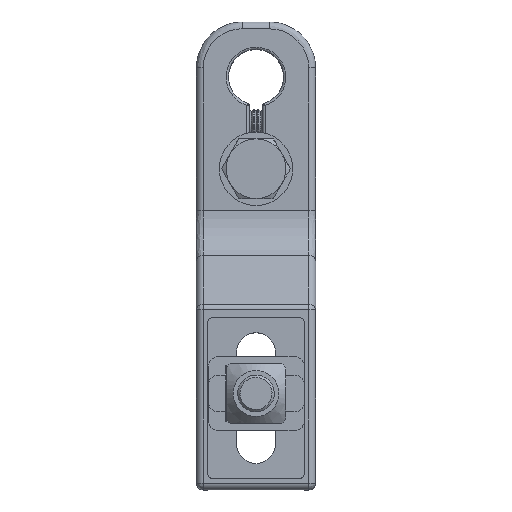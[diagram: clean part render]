
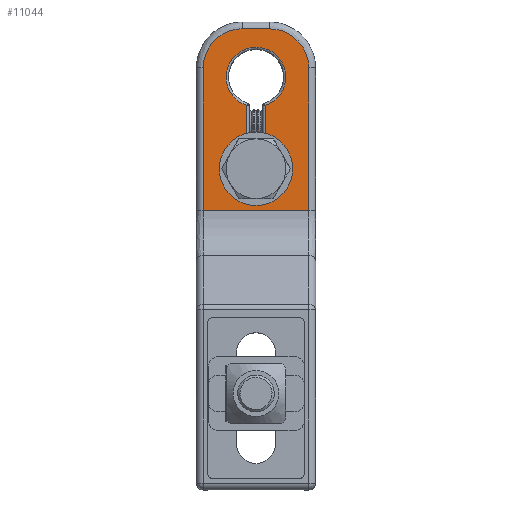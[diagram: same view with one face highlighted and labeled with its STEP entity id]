
A CAD part, top view. The second image highlights one B-rep face of the part: STEP entity #11044.
In plain terms, the highlighted planar face has unit normal (0, 0, 1).
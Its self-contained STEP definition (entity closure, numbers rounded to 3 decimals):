
#117 = VERTEX_POINT ( 'NONE', #3229 ) ;
#174 = EDGE_CURVE ( 'NONE', #6203, #10761, #5980, .T. ) ;
#317 = CARTESIAN_POINT ( 'NONE',  ( 11., 36.185, 0. ) ) ;
#330 = CARTESIAN_POINT ( 'NONE',  ( 24.5, 52., 0. ) ) ;
#622 =( BOUNDED_CURVE ( )  B_SPLINE_CURVE ( 3, ( #3763, #1930, #4770, #8723 ),
 .UNSPECIFIED., .F., .T. ) 
 B_SPLINE_CURVE_WITH_KNOTS ( ( 4, 4 ),
 ( 0., 1. ),
 .UNSPECIFIED. ) 
 CURVE ( )  GEOMETRIC_REPRESENTATION_ITEM ( )  RATIONAL_B_SPLINE_CURVE ( ( 1., 0.437, 0.437, 1. ) ) 
 REPRESENTATION_ITEM ( '' )  );
#626 = VECTOR ( 'NONE', #7949, 1000. ) ;
#1338 = VECTOR ( 'NONE', #11007, 1000. ) ;
#1361 = LINE ( 'NONE', #10711, #9030 ) ;
#1420 = DIRECTION ( 'NONE',  ( 1., 0., 0. ) ) ;
#1682 = CARTESIAN_POINT ( 'NONE',  ( 3.209, 56.5, 0. ) ) ;
#1705 = VERTEX_POINT ( 'NONE', #9413 ) ;
#1741 = ORIENTED_EDGE ( 'NONE', *, *, #174, .F. ) ;
#1801 = CARTESIAN_POINT ( 'NONE',  ( 1.5, 52., 0. ) ) ;
#1858 = CARTESIAN_POINT ( 'NONE',  ( 26., 20.951, 0. ) ) ;
#1911 = LINE ( 'NONE', #1858, #10162 ) ;
#1930 = CARTESIAN_POINT ( 'NONE',  ( 24.316, 46.828, 0. ) ) ;
#1964 = EDGE_CURVE ( 'NONE', #1991, #2882, #5147, .T. ) ;
#1991 = VERTEX_POINT ( 'NONE', #5323 ) ;
#2467 = ORIENTED_EDGE ( 'NONE', *, *, #3385, .F. ) ;
#2603 = CARTESIAN_POINT ( 'NONE',  ( 11., 14.704, 0. ) ) ;
#2882 = VERTEX_POINT ( 'NONE', #11005 ) ;
#3055 =( BOUNDED_CURVE ( )  B_SPLINE_CURVE ( 3, ( #1801, #6633, #11142, #5691 ),
 .UNSPECIFIED., .F., .F. ) 
 B_SPLINE_CURVE_WITH_KNOTS ( ( 4, 4 ),
 ( 0., 1. ),
 .UNSPECIFIED. ) 
 CURVE ( )  GEOMETRIC_REPRESENTATION_ITEM ( )  RATIONAL_B_SPLINE_CURVE ( ( 1., 0.805, 0.805, 1. ) ) 
 REPRESENTATION_ITEM ( '' )  );
#3134 = CARTESIAN_POINT ( 'NONE',  ( 13., 23.5, 0. ) ) ;
#3213 = ORIENTED_EDGE ( 'NONE', *, *, #11962, .F. ) ;
#3229 = CARTESIAN_POINT ( 'NONE',  ( 24.5, 52., 0. ) ) ;
#3249 = DIRECTION ( 'NONE',  ( 0., 0., -1. ) ) ;
#3385 = EDGE_CURVE ( 'NONE', #7807, #1705, #3055, .T. ) ;
#3763 = CARTESIAN_POINT ( 'NONE',  ( 15., 43.815, 0. ) ) ;
#3967 = CARTESIAN_POINT ( 'NONE',  ( 15., 14.704, 0. ) ) ;
#3991 = VECTOR ( 'NONE', #4200, 1000. ) ;
#4079 = ORIENTED_EDGE ( 'NONE', *, *, #7150, .F. ) ;
#4109 = PLANE ( 'NONE',  #7128 ) ;
#4200 = DIRECTION ( 'NONE',  ( 0., -1., 0. ) ) ;
#4409 = FACE_BOUND ( 'NONE', #7444, .T. ) ;
#4770 = CARTESIAN_POINT ( 'NONE',  ( 22.791, 56.5, 0. ) ) ;
#4784 = CARTESIAN_POINT ( 'NONE',  ( 16., 60.5, 0. ) ) ;
#5014 = CARTESIAN_POINT ( 'NONE',  ( 24.5, 56.979, 0. ) ) ;
#5147 = LINE ( 'NONE', #2603, #3991 ) ;
#5323 = CARTESIAN_POINT ( 'NONE',  ( 11., 43.815, 0. ) ) ;
#5324 = CARTESIAN_POINT ( 'NONE',  ( 1.684, 46.828, 0. ) ) ;
#5352 = CARTESIAN_POINT ( 'NONE',  ( 13., 56.5, 0. ) ) ;
#5537 = ORIENTED_EDGE ( 'NONE', *, *, #5791, .F. ) ;
#5551 = EDGE_CURVE ( 'NONE', #8429, #7807, #12141, .T. ) ;
#5615 = EDGE_CURVE ( 'NONE', #10761, #9955, #622, .T. ) ;
#5691 = CARTESIAN_POINT ( 'NONE',  ( 10., 60.5, 0. ) ) ;
#5712 = EDGE_CURVE ( 'NONE', #10192, #117, #9372, .T. ) ;
#5715 = ORIENTED_EDGE ( 'NONE', *, *, #5551, .F. ) ;
#5717 = CARTESIAN_POINT ( 'NONE',  ( 1.5, 20.951, 0. ) ) ;
#5750 = CARTESIAN_POINT ( 'NONE',  ( 1.684, 33.172, 0. ) ) ;
#5791 = EDGE_CURVE ( 'NONE', #117, #11000, #11123, .T. ) ;
#5826 = ORIENTED_EDGE ( 'NONE', *, *, #9503, .F. ) ;
#5849 =( BOUNDED_CURVE ( )  B_SPLINE_CURVE ( 3, ( #10124, #1682, #5324, #10800 ),
 .UNSPECIFIED., .F., .T. ) 
 B_SPLINE_CURVE_WITH_KNOTS ( ( 4, 4 ),
 ( 0., 1. ),
 .UNSPECIFIED. ) 
 CURVE ( )  GEOMETRIC_REPRESENTATION_ITEM ( )  RATIONAL_B_SPLINE_CURVE ( ( 1., 0.437, 0.437, 1. ) ) 
 REPRESENTATION_ITEM ( '' )  );
#5908 = CARTESIAN_POINT ( 'NONE',  ( 15., 36.185, 0. ) ) ;
#5954 = CARTESIAN_POINT ( 'NONE',  ( 16., 60.5, 0. ) ) ;
#5980 = LINE ( 'NONE', #3967, #626 ) ;
#6203 = VERTEX_POINT ( 'NONE', #5908 ) ;
#6308 = CARTESIAN_POINT ( 'NONE',  ( 15., 36.185, 0. ) ) ;
#6323 = CARTESIAN_POINT ( 'NONE',  ( 1.5, 52., 0. ) ) ;
#6449 = ORIENTED_EDGE ( 'NONE', *, *, #11846, .F. ) ;
#6633 = CARTESIAN_POINT ( 'NONE',  ( 1.5, 56.979, 0. ) ) ;
#6770 = DIRECTION ( 'NONE',  ( 0., 1., 0. ) ) ;
#6990 = FACE_OUTER_BOUND ( 'NONE', #12097, .T. ) ;
#7128 = AXIS2_PLACEMENT_3D ( 'NONE', #10712, #3249, #8188 ) ;
#7150 = EDGE_CURVE ( 'NONE', #1705, #10192, #1361, .T. ) ;
#7264 = ORIENTED_EDGE ( 'NONE', *, *, #1964, .F. ) ;
#7300 = CARTESIAN_POINT ( 'NONE',  ( 15., 43.815, 0. ) ) ;
#7444 = EDGE_LOOP ( 'NONE', ( #5826, #10573, #1741, #3213, #7264 ) ) ;
#7563 = CARTESIAN_POINT ( 'NONE',  ( 1.5, 14.704, 0. ) ) ;
#7584 =( BOUNDED_CURVE ( )  B_SPLINE_CURVE ( 3, ( #317, #5750, #8766, #3134, #7669, #11393, #6308 ),
 .UNSPECIFIED., .F., .T. ) 
 B_SPLINE_CURVE_WITH_KNOTS ( ( 4, 3, 4 ),
 ( 0., 0.5, 1. ),
 .UNSPECIFIED. ) 
 CURVE ( )  GEOMETRIC_REPRESENTATION_ITEM ( )  RATIONAL_B_SPLINE_CURVE ( ( 1., 0.437, 0.437, 1., 0.437, 0.437, 1. ) ) 
 REPRESENTATION_ITEM ( '' )  );
#7669 = CARTESIAN_POINT ( 'NONE',  ( 22.791, 23.5, 0. ) ) ;
#7742 = CARTESIAN_POINT ( 'NONE',  ( 20.979, 60.5, 0. ) ) ;
#7807 = VERTEX_POINT ( 'NONE', #6323 ) ;
#7949 = DIRECTION ( 'NONE',  ( 0., 1., 0. ) ) ;
#8188 = DIRECTION ( 'NONE',  ( 0., 1., 0. ) ) ;
#8269 = CARTESIAN_POINT ( 'NONE',  ( 24.5, 14.704, 0. ) ) ;
#8429 = VERTEX_POINT ( 'NONE', #5717 ) ;
#8530 = DIRECTION ( 'NONE',  ( -1., 0., 0. ) ) ;
#8723 = CARTESIAN_POINT ( 'NONE',  ( 13., 56.5, 0. ) ) ;
#8766 = CARTESIAN_POINT ( 'NONE',  ( 3.209, 23.5, 0. ) ) ;
#8968 = ORIENTED_EDGE ( 'NONE', *, *, #5712, .F. ) ;
#9030 = VECTOR ( 'NONE', #1420, 1000. ) ;
#9208 = VECTOR ( 'NONE', #6770, 1000. ) ;
#9372 =( BOUNDED_CURVE ( )  B_SPLINE_CURVE ( 3, ( #5954, #7742, #5014, #330 ),
 .UNSPECIFIED., .F., .T. ) 
 B_SPLINE_CURVE_WITH_KNOTS ( ( 4, 4 ),
 ( 0., 1. ),
 .UNSPECIFIED. ) 
 CURVE ( )  GEOMETRIC_REPRESENTATION_ITEM ( )  RATIONAL_B_SPLINE_CURVE ( ( 1., 0.805, 0.805, 1. ) ) 
 REPRESENTATION_ITEM ( '' )  );
#9413 = CARTESIAN_POINT ( 'NONE',  ( 10., 60.5, 0. ) ) ;
#9503 = EDGE_CURVE ( 'NONE', #9955, #1991, #5849, .T. ) ;
#9955 = VERTEX_POINT ( 'NONE', #5352 ) ;
#10124 = CARTESIAN_POINT ( 'NONE',  ( 13., 56.5, 0. ) ) ;
#10162 = VECTOR ( 'NONE', #8530, 1000. ) ;
#10192 = VERTEX_POINT ( 'NONE', #4784 ) ;
#10573 = ORIENTED_EDGE ( 'NONE', *, *, #5615, .F. ) ;
#10711 = CARTESIAN_POINT ( 'NONE',  ( 26., 60.5, 0. ) ) ;
#10712 = CARTESIAN_POINT ( 'NONE',  ( 26., 14.704, 0. ) ) ;
#10761 = VERTEX_POINT ( 'NONE', #7300 ) ;
#10800 = CARTESIAN_POINT ( 'NONE',  ( 11., 43.815, 0. ) ) ;
#11000 = VERTEX_POINT ( 'NONE', #11903 ) ;
#11005 = CARTESIAN_POINT ( 'NONE',  ( 11., 36.185, 0. ) ) ;
#11007 = DIRECTION ( 'NONE',  ( 0., -1., 0. ) ) ;
#11044 = ADVANCED_FACE ( 'NONE', ( #6990, #4409 ), #4109, .F. ) ;
#11123 = LINE ( 'NONE', #8269, #1338 ) ;
#11142 = CARTESIAN_POINT ( 'NONE',  ( 5.021, 60.5, 0. ) ) ;
#11393 = CARTESIAN_POINT ( 'NONE',  ( 24.316, 33.172, 0. ) ) ;
#11846 = EDGE_CURVE ( 'NONE', #11000, #8429, #1911, .T. ) ;
#11903 = CARTESIAN_POINT ( 'NONE',  ( 24.5, 20.951, 0. ) ) ;
#11962 = EDGE_CURVE ( 'NONE', #2882, #6203, #7584, .T. ) ;
#12097 = EDGE_LOOP ( 'NONE', ( #5537, #8968, #4079, #2467, #5715, #6449 ) ) ;
#12141 = LINE ( 'NONE', #7563, #9208 ) ;
